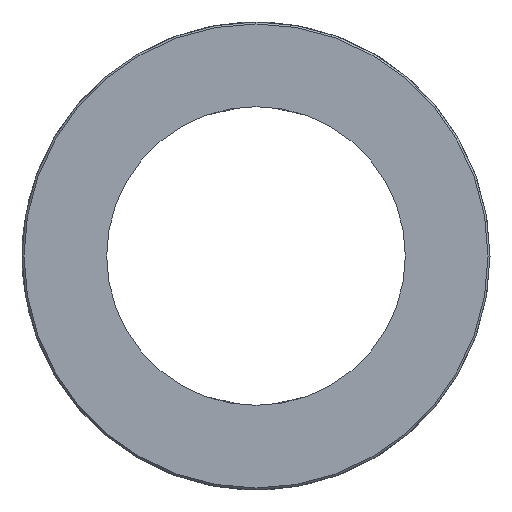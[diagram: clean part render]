
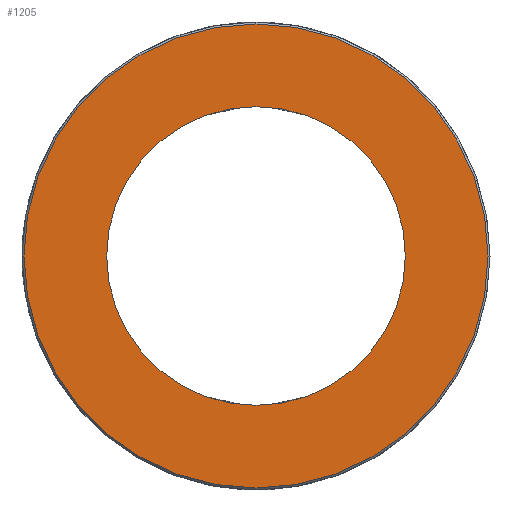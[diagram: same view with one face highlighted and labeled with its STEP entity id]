
A CAD part, left-side view. The second image highlights one B-rep face of the part: STEP entity #1205.
In plain terms, the highlighted planar face has unit normal (-1, 0, 0) as drawn and (0, 0, 1) by its records, which use the part's own axes.
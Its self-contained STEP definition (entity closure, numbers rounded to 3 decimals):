
#185 = EDGE_CURVE ( 'NONE', #2047, #700, #957, .T. ) ;
#186 = CARTESIAN_POINT ( 'NONE',  ( 0., 0., 8.5 ) ) ;
#233 = AXIS2_PLACEMENT_3D ( 'NONE', #186, #348, #1264 ) ;
#334 = DIRECTION ( 'NONE',  ( 0., 0., 1. ) ) ;
#335 = CARTESIAN_POINT ( 'NONE',  ( -15., 0., 8.5 ) ) ;
#348 = DIRECTION ( 'NONE',  ( 0., 0., 1. ) ) ;
#388 = EDGE_CURVE ( 'NONE', #1170, #1117, #1769, .T. ) ;
#428 = DIRECTION ( 'NONE',  ( 1., 0., 0. ) ) ;
#487 = FACE_OUTER_BOUND ( 'NONE', #1043, .T. ) ;
#563 = CARTESIAN_POINT ( 'NONE',  ( 0., 0., 8.5 ) ) ;
#700 = VERTEX_POINT ( 'NONE', #1491 ) ;
#908 = CARTESIAN_POINT ( 'NONE',  ( -23.3, 0., 8.5 ) ) ;
#921 = EDGE_LOOP ( 'NONE', ( #1405, #1983 ) ) ;
#922 = AXIS2_PLACEMENT_3D ( 'NONE', #1537, #1687, #1708 ) ;
#946 = EDGE_CURVE ( 'NONE', #700, #2047, #1427, .T. ) ;
#957 = CIRCLE ( 'NONE', #233, 23.3 ) ;
#970 = AXIS2_PLACEMENT_3D ( 'NONE', #563, #1063, #428 ) ;
#1032 = AXIS2_PLACEMENT_3D ( 'NONE', #1300, #334, #1131 ) ;
#1043 = EDGE_LOOP ( 'NONE', ( #1172, #1252 ) ) ;
#1063 = DIRECTION ( 'NONE',  ( 0., 0., 1. ) ) ;
#1064 = AXIS2_PLACEMENT_3D ( 'NONE', #2042, #1253, #1243 ) ;
#1117 = VERTEX_POINT ( 'NONE', #335 ) ;
#1131 = DIRECTION ( 'NONE',  ( 1., 0., 0. ) ) ;
#1134 = FACE_BOUND ( 'NONE', #921, .T. ) ;
#1170 = VERTEX_POINT ( 'NONE', #1790 ) ;
#1172 = ORIENTED_EDGE ( 'NONE', *, *, #185, .T. ) ;
#1205 = ADVANCED_FACE ( 'NONE', ( #487, #1134 ), #1378, .T. ) ;
#1243 = DIRECTION ( 'NONE',  ( 1., 0., 0. ) ) ;
#1252 = ORIENTED_EDGE ( 'NONE', *, *, #946, .T. ) ;
#1253 = DIRECTION ( 'NONE',  ( 0., 0., 1. ) ) ;
#1264 = DIRECTION ( 'NONE',  ( 1., 0., 0. ) ) ;
#1300 = CARTESIAN_POINT ( 'NONE',  ( 0., 0., 8.5 ) ) ;
#1378 = PLANE ( 'NONE',  #922 ) ;
#1405 = ORIENTED_EDGE ( 'NONE', *, *, #1792, .F. ) ;
#1427 = CIRCLE ( 'NONE', #1064, 23.3 ) ;
#1491 = CARTESIAN_POINT ( 'NONE',  ( 23.3, 0., 8.5 ) ) ;
#1537 = CARTESIAN_POINT ( 'NONE',  ( 0., 0., 8.5 ) ) ;
#1687 = DIRECTION ( 'NONE',  ( 0., 0., 1. ) ) ;
#1708 = DIRECTION ( 'NONE',  ( 1., 0., 0. ) ) ;
#1769 = CIRCLE ( 'NONE', #1032, 15. ) ;
#1790 = CARTESIAN_POINT ( 'NONE',  ( 15., 0., 8.5 ) ) ;
#1792 = EDGE_CURVE ( 'NONE', #1117, #1170, #1809, .T. ) ;
#1809 = CIRCLE ( 'NONE', #970, 15. ) ;
#1983 = ORIENTED_EDGE ( 'NONE', *, *, #388, .F. ) ;
#2042 = CARTESIAN_POINT ( 'NONE',  ( 0., 0., 8.5 ) ) ;
#2047 = VERTEX_POINT ( 'NONE', #908 ) ;
